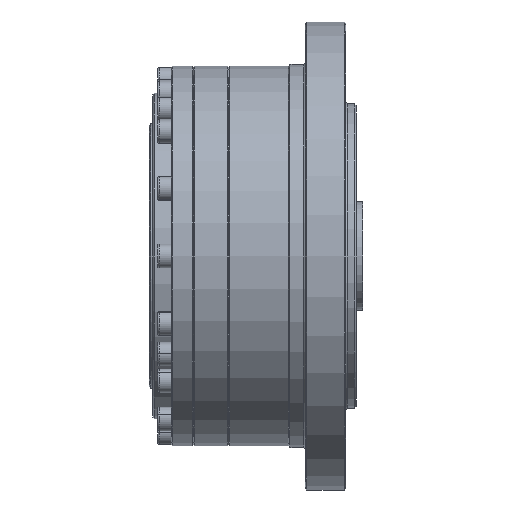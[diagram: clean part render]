
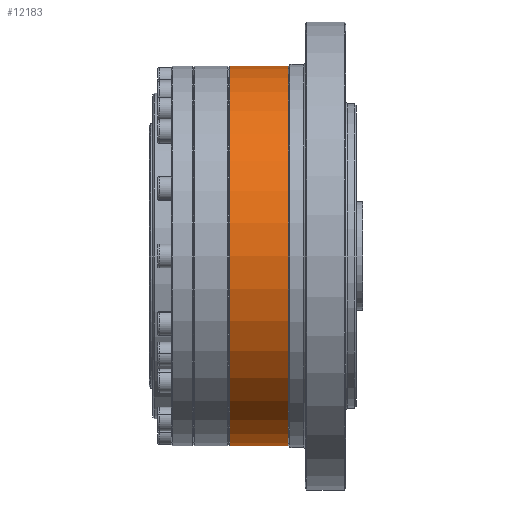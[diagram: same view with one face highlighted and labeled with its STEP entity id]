
A CAD part, front view. The second image highlights one B-rep face of the part: STEP entity #12183.
In plain terms, the highlighted cylindrical face has radius 56 mm (diameter 112 mm), a partial arc.
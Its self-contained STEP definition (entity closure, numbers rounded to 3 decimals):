
#359 = VERTEX_POINT ( 'NONE', #2801 ) ;
#949 = CARTESIAN_POINT ( 'NONE',  ( 25.726, 0., 0. ) ) ;
#1078 = EDGE_CURVE ( 'NONE', #16710, #8538, #18364, .T. ) ;
#1345 = AXIS2_PLACEMENT_3D ( 'NONE', #949, #15636, #3043 ) ;
#1667 = VERTEX_POINT ( 'NONE', #25974 ) ;
#1906 = CARTESIAN_POINT ( 'NONE',  ( 25.726, 0., 56. ) ) ;
#2537 = EDGE_CURVE ( 'NONE', #8538, #359, #8195, .T. ) ;
#2801 = CARTESIAN_POINT ( 'NONE',  ( 42.926, 0., -56. ) ) ;
#3043 = DIRECTION ( 'NONE',  ( 0., 0., -1. ) ) ;
#3979 = CARTESIAN_POINT ( 'NONE',  ( 63.433, 0., 56. ) ) ;
#4510 = ORIENTED_EDGE ( 'NONE', *, *, #15523, .F. ) ;
#7237 = DIRECTION ( 'NONE',  ( 1., 0., 0. ) ) ;
#8034 = DIRECTION ( 'NONE',  ( 1., 0., 0. ) ) ;
#8195 = LINE ( 'NONE', #20615, #23607 ) ;
#8538 = VERTEX_POINT ( 'NONE', #21348 ) ;
#8954 = AXIS2_PLACEMENT_3D ( 'NONE', #9111, #23795, #11239 ) ;
#9111 = CARTESIAN_POINT ( 'NONE',  ( 42.926, 0., 0. ) ) ;
#9811 = CYLINDRICAL_SURFACE ( 'NONE', #22696, 56. ) ;
#10515 = EDGE_CURVE ( 'NONE', #1667, #359, #14528, .T. ) ;
#10538 = ORIENTED_EDGE ( 'NONE', *, *, #10515, .F. ) ;
#11239 = DIRECTION ( 'NONE',  ( 0., 0., -1. ) ) ;
#12183 = ADVANCED_FACE ( 'NONE', ( #16069 ), #9811, .T. ) ;
#14528 = CIRCLE ( 'NONE', #8954, 56. ) ;
#15467 = ORIENTED_EDGE ( 'NONE', *, *, #1078, .T. ) ;
#15523 = EDGE_CURVE ( 'NONE', #16710, #1667, #27079, .T. ) ;
#15615 = CARTESIAN_POINT ( 'NONE',  ( 63.433, 0., 0. ) ) ;
#15636 = DIRECTION ( 'NONE',  ( 1., 0., 0. ) ) ;
#16069 = FACE_OUTER_BOUND ( 'NONE', #21158, .T. ) ;
#16710 = VERTEX_POINT ( 'NONE', #1906 ) ;
#18364 = CIRCLE ( 'NONE', #1345, 56. ) ;
#20615 = CARTESIAN_POINT ( 'NONE',  ( 63.433, 0., -56. ) ) ;
#20798 = DIRECTION ( 'NONE',  ( 1., 0., 0. ) ) ;
#21158 = EDGE_LOOP ( 'NONE', ( #4510, #15467, #25313, #10538 ) ) ;
#21348 = CARTESIAN_POINT ( 'NONE',  ( 25.726, 0., -56. ) ) ;
#21482 = VECTOR ( 'NONE', #20798, 1000. ) ;
#21914 = DIRECTION ( 'NONE',  ( 0., 0., -1. ) ) ;
#22696 = AXIS2_PLACEMENT_3D ( 'NONE', #15615, #7237, #21914 ) ;
#23607 = VECTOR ( 'NONE', #8034, 1000. ) ;
#23795 = DIRECTION ( 'NONE',  ( 1., 0., 0. ) ) ;
#25313 = ORIENTED_EDGE ( 'NONE', *, *, #2537, .T. ) ;
#25974 = CARTESIAN_POINT ( 'NONE',  ( 42.926, 0., 56. ) ) ;
#27079 = LINE ( 'NONE', #3979, #21482 ) ;
